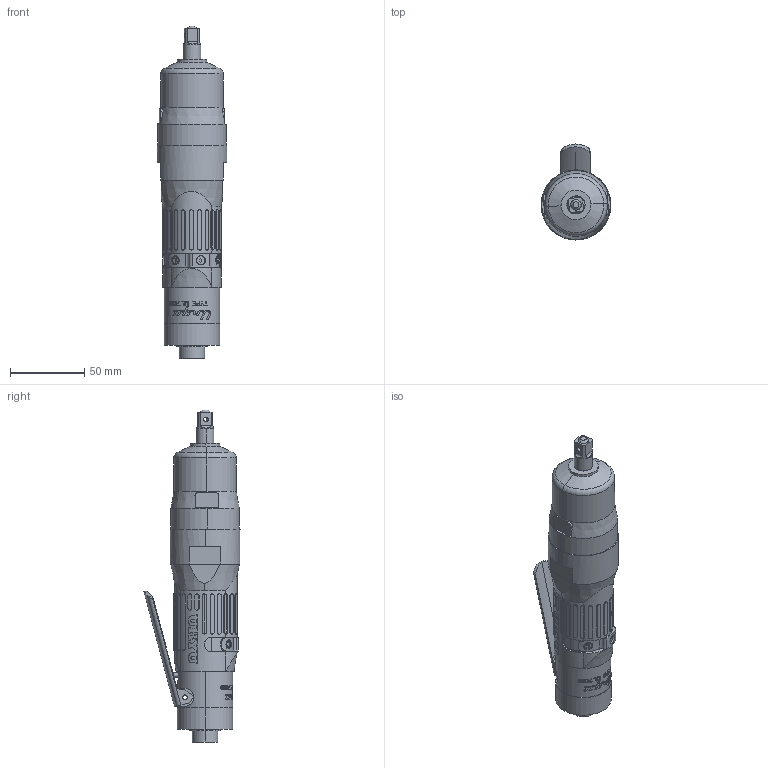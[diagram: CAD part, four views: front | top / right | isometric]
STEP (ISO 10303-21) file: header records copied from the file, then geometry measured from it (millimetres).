
FILE_DESCRIPTION (( 'STEP AP203' ), '1' );
FILE_NAME ('Assem1.STEP', '2008-03-07T07:18:52', ( 'gikai-nt16' ), ( ' ' ), 'SwSTEP 2.0', 'SolidWorks 2003240', '' );
FILE_SCHEMA (( 'CONFIG_CONTROL_DESIGN' ));
Length unit declared in the file: millimetre
Products named in the file (8): バルブレバー_ﾃﾞﾌｫﾙﾄ; UL70S杮懱_棉太倌; 切り替えレバー_ﾃﾞﾌｫﾙﾄ; Assem1; フロントケース_ﾃﾞﾌｫﾙﾄ; ロールピン_ﾃﾞﾌｫﾙﾄ; 握りカバー_ﾃﾞﾌｫﾙﾄ; 庡幉丵_棉太倌
Assembly tree (7 placements, depth 2):
  Assem1
    庡幉丵_棉太倌
    フロントケース_ﾃﾞﾌｫﾙﾄ
    握りカバー_ﾃﾞﾌｫﾙﾄ
    バルブレバー_ﾃﾞﾌｫﾙﾄ
    切り替えレバー_ﾃﾞﾌｫﾙﾄ
    ロールピン_ﾃﾞﾌｫﾙﾄ
    UL70S杮懱_棉太倌
Bounding box: 47 x 64.57 x 223 mm (x, y, z)
Volume: 258924.7 mm3; surface area: 56554.3 mm2
Topology: 7 solids, 7 shells, 745 faces, 1988 edges, 1317 vertices
Faces by surface type: plane 386, cylinder 279, bspline 62, cone 10, torus 6, sphere 2
Entity records: 31517 total; most frequent: CARTESIAN_POINT 13146, ORIENTED_EDGE 3976, DIRECTION 3170, EDGE_CURVE 1988, VERTEX_POINT 1317, AXIS2_PLACEMENT_3D 1078, VECTOR 1014, LINE 1014
